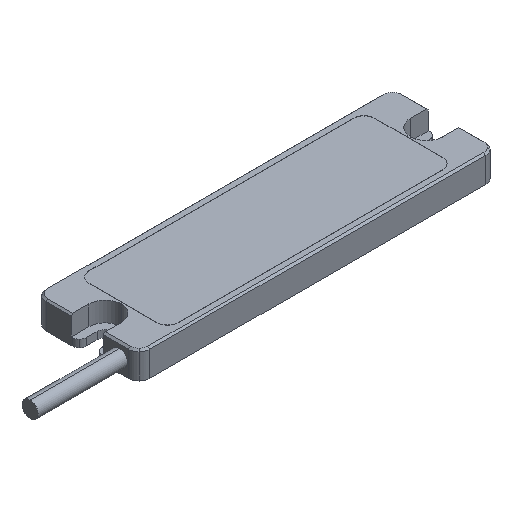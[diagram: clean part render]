
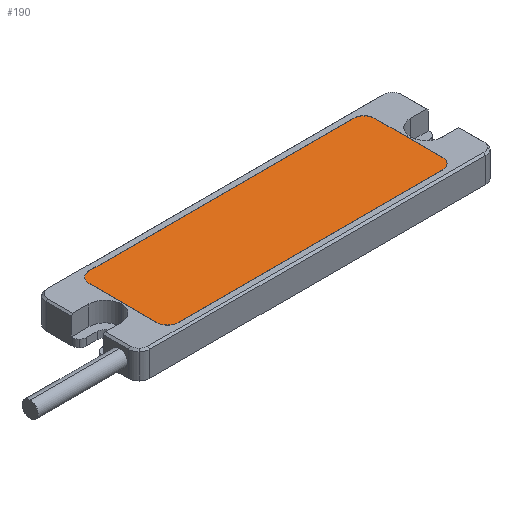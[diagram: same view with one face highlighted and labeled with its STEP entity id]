
A CAD part, isometric view. The second image highlights one B-rep face of the part: STEP entity #190.
In plain terms, the highlighted planar face has unit normal (0, 0, 1).
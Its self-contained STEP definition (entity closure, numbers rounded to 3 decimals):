
#190=ADVANCED_FACE('',(#424),#425,.T.);
#424=FACE_OUTER_BOUND('',#707,.T.);
#425=PLANE('',#708);
#707=EDGE_LOOP('',(#1174,#1175,#1176,#1177,#1178,#1179,#1180,#1181,#1182,#1183,#1184,#1185));
#708=AXIS2_PLACEMENT_3D('',#1186,#1187,#1188);
#1174=ORIENTED_EDGE('',*,*,#1878,.F.);
#1175=ORIENTED_EDGE('',*,*,#1836,.T.);
#1176=ORIENTED_EDGE('',*,*,#1879,.F.);
#1177=ORIENTED_EDGE('',*,*,#1880,.F.);
#1178=ORIENTED_EDGE('',*,*,#1881,.T.);
#1179=ORIENTED_EDGE('',*,*,#1882,.F.);
#1180=ORIENTED_EDGE('',*,*,#1883,.F.);
#1181=ORIENTED_EDGE('',*,*,#1884,.T.);
#1182=ORIENTED_EDGE('',*,*,#1885,.F.);
#1183=ORIENTED_EDGE('',*,*,#1886,.F.);
#1184=ORIENTED_EDGE('',*,*,#1887,.T.);
#1185=ORIENTED_EDGE('',*,*,#1827,.F.);
#1186=CARTESIAN_POINT('',(0.0,0.0,3.75));
#1187=DIRECTION('',(0.0,0.0,1.0));
#1188=DIRECTION('',(1.0,-0.0,0.0));
#1827=EDGE_CURVE('',#2235,#2237,#2238,.T.);
#1836=EDGE_CURVE('',#2246,#2250,#2252,.T.);
#1878=EDGE_CURVE('',#2246,#2235,#2315,.T.);
#1879=EDGE_CURVE('',#2316,#2250,#2317,.T.);
#1880=EDGE_CURVE('',#2318,#2316,#2319,.T.);
#1881=EDGE_CURVE('',#2318,#2320,#2321,.T.);
#1882=EDGE_CURVE('',#2322,#2320,#2323,.T.);
#1883=EDGE_CURVE('',#2324,#2322,#2325,.T.);
#1884=EDGE_CURVE('',#2324,#2326,#2327,.T.);
#1885=EDGE_CURVE('',#2328,#2326,#2329,.T.);
#1886=EDGE_CURVE('',#2330,#2328,#2331,.T.);
#1887=EDGE_CURVE('',#2330,#2237,#2332,.T.);
#2235=VERTEX_POINT('',#2803);
#2237=VERTEX_POINT('',#2806);
#2238=CIRCLE('',#2807,3.0);
#2246=VERTEX_POINT('',#2817);
#2250=VERTEX_POINT('',#2823);
#2252=LINE('',#2826,#2827);
#2315=CIRCLE('',#2906,3.0);
#2316=VERTEX_POINT('',#2907);
#2317=CIRCLE('',#2908,3.0);
#2318=VERTEX_POINT('',#2909);
#2319=CIRCLE('',#2910,3.0);
#2320=VERTEX_POINT('',#2911);
#2321=LINE('',#2912,#2913);
#2322=VERTEX_POINT('',#2914);
#2323=CIRCLE('',#2915,3.0);
#2324=VERTEX_POINT('',#2916);
#2325=CIRCLE('',#2917,3.0);
#2326=VERTEX_POINT('',#2918);
#2327=LINE('',#2919,#2920);
#2328=VERTEX_POINT('',#2921);
#2329=CIRCLE('',#2922,3.0);
#2330=VERTEX_POINT('',#2923);
#2331=CIRCLE('',#2924,3.0);
#2332=LINE('',#2925,#2926);
#2803=CARTESIAN_POINT('',(39.121,-11.621,3.75));
#2806=CARTESIAN_POINT('',(37.0,-12.5,3.75));
#2807=AXIS2_PLACEMENT_3D('',#3323,#3324,#3325);
#2817=CARTESIAN_POINT('',(40.0,-9.5,3.75));
#2823=CARTESIAN_POINT('',(40.0,9.5,3.75));
#2826=CARTESIAN_POINT('',(40.0,0.0,3.75));
#2827=VECTOR('',#3334,1.0);
#2906=AXIS2_PLACEMENT_3D('',#3405,#3406,#3407);
#2907=CARTESIAN_POINT('',(39.121,11.621,3.75));
#2908=AXIS2_PLACEMENT_3D('',#3408,#3409,#3410);
#2909=CARTESIAN_POINT('',(37.0,12.5,3.75));
#2910=AXIS2_PLACEMENT_3D('',#3411,#3412,#3413);
#2911=CARTESIAN_POINT('',(-37.0,12.5,3.75));
#2912=CARTESIAN_POINT('',(0.0,12.5,3.75));
#2913=VECTOR('',#3414,1.0);
#2914=CARTESIAN_POINT('',(-39.121,11.621,3.75));
#2915=AXIS2_PLACEMENT_3D('',#3415,#3416,#3417);
#2916=CARTESIAN_POINT('',(-40.0,9.5,3.75));
#2917=AXIS2_PLACEMENT_3D('',#3418,#3419,#3420);
#2918=CARTESIAN_POINT('',(-40.0,-9.5,3.75));
#2919=CARTESIAN_POINT('',(-40.0,0.0,3.75));
#2920=VECTOR('',#3421,1.0);
#2921=CARTESIAN_POINT('',(-39.121,-11.621,3.75));
#2922=AXIS2_PLACEMENT_3D('',#3422,#3423,#3424);
#2923=CARTESIAN_POINT('',(-37.0,-12.5,3.75));
#2924=AXIS2_PLACEMENT_3D('',#3425,#3426,#3427);
#2925=CARTESIAN_POINT('',(0.0,-12.5,3.75));
#2926=VECTOR('',#3428,1.0);
#3323=CARTESIAN_POINT('',(37.0,-9.5,3.75));
#3324=DIRECTION('',(0.0,-0.0,-1.0));
#3325=DIRECTION('',(0.707,-0.707,0.0));
#3334=DIRECTION('',(0.0,1.0,0.0));
#3405=CARTESIAN_POINT('',(37.0,-9.5,3.75));
#3406=DIRECTION('',(0.0,-0.0,-1.0));
#3407=DIRECTION('',(0.707,-0.707,0.0));
#3408=CARTESIAN_POINT('',(37.0,9.5,3.75));
#3409=DIRECTION('',(0.0,0.0,-1.0));
#3410=DIRECTION('',(0.707,0.707,0.0));
#3411=CARTESIAN_POINT('',(37.0,9.5,3.75));
#3412=DIRECTION('',(0.0,0.0,-1.0));
#3413=DIRECTION('',(0.707,0.707,0.0));
#3414=DIRECTION('',(-1.0,0.0,0.0));
#3415=CARTESIAN_POINT('',(-37.0,9.5,3.75));
#3416=DIRECTION('',(0.0,0.0,-1.0));
#3417=DIRECTION('',(-0.707,0.707,0.0));
#3418=CARTESIAN_POINT('',(-37.0,9.5,3.75));
#3419=DIRECTION('',(0.0,0.0,-1.0));
#3420=DIRECTION('',(-0.707,0.707,0.0));
#3421=DIRECTION('',(0.0,-1.0,0.0));
#3422=CARTESIAN_POINT('',(-37.0,-9.5,3.75));
#3423=DIRECTION('',(-0.0,0.0,-1.0));
#3424=DIRECTION('',(-0.707,-0.707,0.0));
#3425=CARTESIAN_POINT('',(-37.0,-9.5,3.75));
#3426=DIRECTION('',(-0.0,0.0,-1.0));
#3427=DIRECTION('',(-0.707,-0.707,0.0));
#3428=DIRECTION('',(1.0,0.0,0.0));
